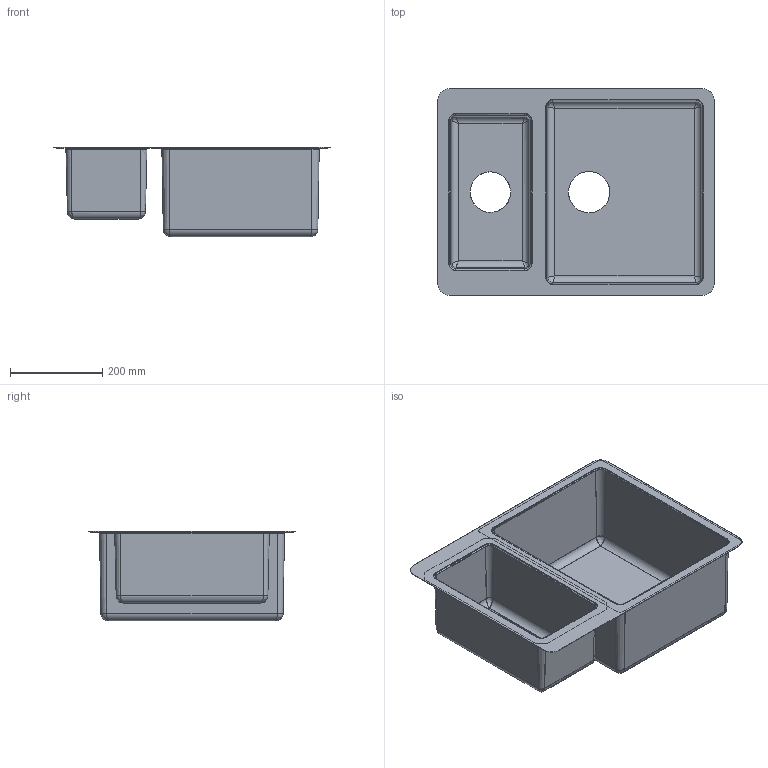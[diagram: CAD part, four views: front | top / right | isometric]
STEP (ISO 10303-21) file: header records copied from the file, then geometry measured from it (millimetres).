
FILE_DESCRIPTION(('CATIA V5 STEP Exchange'),'2;1');
FILE_NAME('\\sr02\Apell\Disegni\DISEGNI\LAVELLI\Mira\Assiemi\VSTR4018-2\BIM\VSTR4018-2.stp','2018-01-12T10:52:24+00:00',('none'),('none'),'CATIA Version 5-6 Release 2014','CATIA V5 STEP AP203','none');
FILE_SCHEMA(('CONFIG_CONTROL_DESIGN'));
Length unit declared in the file: millimetre
Products named in the file (1): Assieme
Bounding box: 600 x 450 x 194.5 mm (x, y, z)
Volume: 709547.5 mm3; surface area: 1427165.5 mm2
Topology: 3 solids, 3 shells, 158 faces, 372 edges, 216 vertices
Faces by surface type: cylinder 56, plane 54, bspline 48
Entity records: 10564 total; most frequent: CARTESIAN_POINT 7392, ORIENTED_EDGE 728, DIRECTION 449, EDGE_CURVE 364, VERTEX_POINT 216, VECTOR 179, LINE 179, EDGE_LOOP 172
